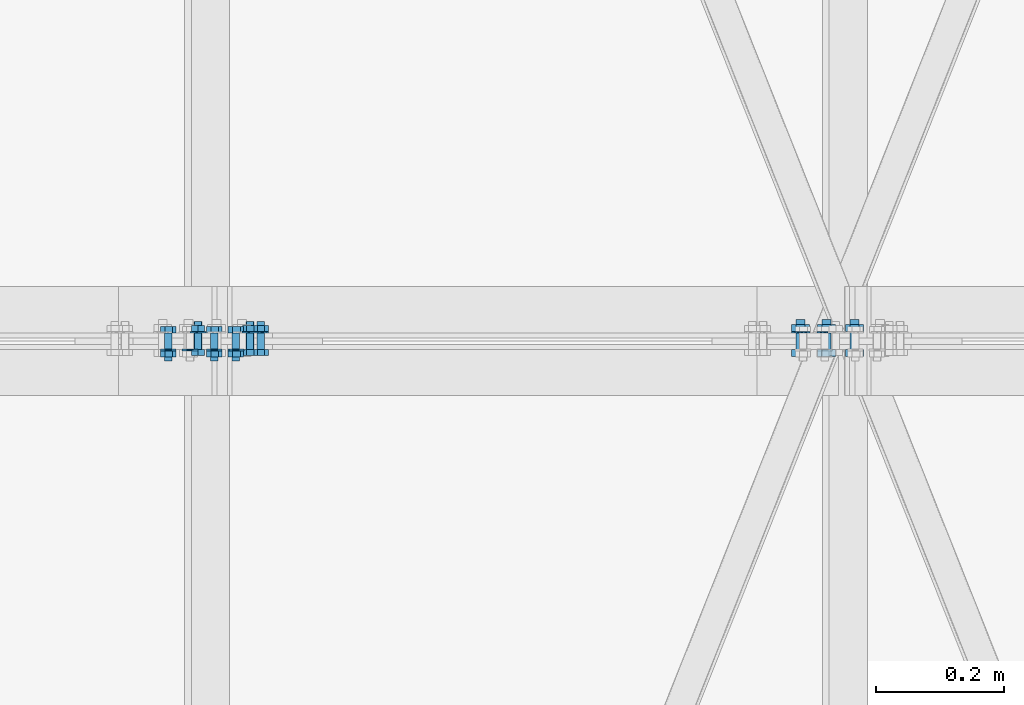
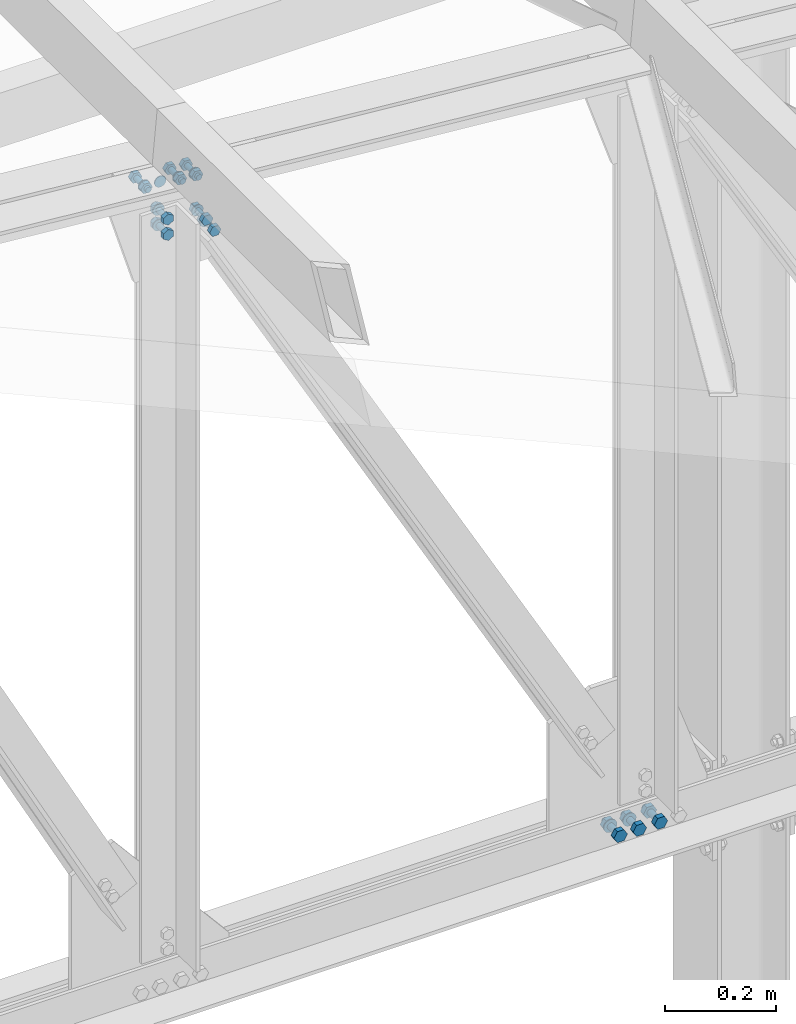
# One storey, part 146 of 251: 40 mechanical fasteners.
"""IFC4 building model written with IfcOpenShell, lengths in metres."""

from ifc_helpers import new_model, si_unit, frame, origin_with_axes, place, context, project, spatial, polyline, outline, extrude, type_object, element, save


model = new_model("IFC4")

# Units and contexts
model_context = context("Model", 3, precision=1e-05, world=origin_with_axes())
ifc_project = project(units=[si_unit("LENGTHUNIT", "METRE"), si_unit("AREAUNIT", "SQUARE_METRE"), si_unit("VOLUMEUNIT", "CUBIC_METRE"), si_unit("MASSUNIT", "GRAM", prefix="KILO"), si_unit("TIMEUNIT", "SECOND"), si_unit("PLANEANGLEUNIT", "RADIAN"), si_unit("SOLIDANGLEUNIT", "STERADIAN"), si_unit("THERMODYNAMICTEMPERATUREUNIT", "DEGREE_CELSIUS")], contexts=[model_context])

# Site, building, storey
placement_1 = place(None, origin_with_axes())
site = spatial("IfcSite", under=ifc_project, at=placement_1, Name="Italia", CompositionType="ELEMENT")
building = spatial("IfcBuilding", under=site, at=placement_1, Name="Deposito", CompositionType="ELEMENT")
storey = spatial("IfcBuildingStorey", under=building, at=placement_1, Name="Storey 0", CompositionType="ELEMENT", Elevation=0.0)

# Mechanical fasteners
mechanical_fastener_type_1 = type_object("IfcMechanicalFastenerType", Name="Reticolare 5", PredefinedType="BOLT")
placement_2 = place(placement_1, origin_with_axes())
mechanical_fastener_1_placement = place(placement_2, origin_with_axes())
element("IfcMechanicalFastener", 1, at=mechanical_fastener_1_placement, inside=storey, type_object=mechanical_fastener_type_1, Name="Reticolare 5", NominalDiameter=0.0139997, context=model_context, shape_type="SweptSolid", body=[
    extrude(outline(polyline([(0.0, 0.0), (-0.0139999, 0.0), (-0.0209999, 0.0121241), (-0.0139999, 0.0242486), (0.0, 0.0242486), (0.00699997, 0.0121241), (0.0, 0.0)])), frame((12.0154, 14.987, 4.99688), z_axis=(0.0, -1.0, 0.0), x_axis=(1.0, 0.0, 0.0)), (0.0, 0.0, 1.0), 0.0112009),
])
mechanical_fastener_type_2 = type_object("IfcMechanicalFastenerType", Name="Reticolare 5", PredefinedType="BOLT")
mechanical_fastener_2_placement = place(placement_2, origin_with_axes())
element("IfcMechanicalFastener", 2, at=mechanical_fastener_2_placement, inside=storey, type_object=mechanical_fastener_type_2, Name="Reticolare 5", NominalDiameter=0.014, context=model_context, shape_type="SweptSolid", body=[
    extrude(outline(polyline([(0.0, 0.0), (-0.000238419, -0.0018115), (-0.000937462, -0.00349998), (-0.0020504, -0.00494957), (-0.00349998, -0.00606203), (-0.00518799, -0.00676155), (-0.00699997, -0.00699997), (-0.00881195, -0.00676155), (-0.0105, -0.00606203), (-0.0119495, -0.00494957), (-0.0130625, -0.00349998), (-0.0137615, -0.0018115), (-0.0139999, 0.0), (-0.0137615, 0.0018115), (-0.0130625, 0.00349998), (-0.0119495, 0.00494957), (-0.0105, 0.00606203), (-0.00881195, 0.00676155), (-0.00699997, 0.00699997), (-0.00518799, 0.00676155), (-0.00349998, 0.00606203), (-0.0020504, 0.00494957), (-0.000937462, 0.00349998), (-0.000238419, 0.0018115), (0.0, 0.0)])), frame((12.0154, 15.034, 5.009), z_axis=(0.0, -1.0, 0.0), x_axis=(1.0, 0.0, 0.0)), (0.0, 0.0, 1.0), 0.0469999),
])
mechanical_fastener_type_3 = type_object("IfcMechanicalFastenerType", Name="Reticolare 5", PredefinedType="BOLT")
mechanical_fastener_3_placement = place(placement_2, origin_with_axes())
element("IfcMechanicalFastener", 3, at=mechanical_fastener_3_placement, inside=storey, type_object=mechanical_fastener_type_3, Name="Reticolare 5", NominalDiameter=0.0139997, context=model_context, shape_type="SweptSolid", body=[
    extrude(outline(polyline([(0.0, 0.0), (-0.0139999, 0.0), (-0.0209999, 0.0121241), (-0.0139999, 0.0242486), (0.0, 0.0242486), (0.00699997, 0.0121241), (0.0, 0.0)])), frame((12.0154, 15.0262, 4.99688), z_axis=(0.0, -1.0, 0.0), x_axis=(1.0, 0.0, 0.0)), (0.0, 0.0, 1.0), 0.0112),
])
mechanical_fastener_type_4 = type_object("IfcMechanicalFastenerType", Name="Reticolare 5", PredefinedType="BOLT")
mechanical_fastener_4_placement = place(placement_2, origin_with_axes())
element("IfcMechanicalFastener", 4, at=mechanical_fastener_4_placement, inside=storey, type_object=mechanical_fastener_type_4, Name="Reticolare 5", NominalDiameter=0.028, context=model_context, shape_type="SweptSolid", body=[
    extrude(outline(polyline([(0.0, 0.0), (-0.000476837, -0.00362349), (-0.00187588, -0.00699997), (-0.0041008, -0.00989962), (-0.00699997, -0.0121245), (-0.0103769, -0.0135231), (-0.0139999, -0.0139999), (-0.0176229, -0.0135231), (-0.0209999, -0.0121245), (-0.0238991, -0.00989962), (-0.026124, -0.00699997), (-0.027523, -0.00362349), (-0.0279999, 0.0), (-0.027523, 0.00362349), (-0.026124, 0.00699997), (-0.0238991, 0.00989962), (-0.0209999, 0.0121245), (-0.0176229, 0.0135231), (-0.0139999, 0.0139999), (-0.0103769, 0.0135231), (-0.00699997, 0.0121245), (-0.0041008, 0.00989962), (-0.00187588, 0.00699997), (-0.000476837, 0.00362349), (0.0, 0.0)])), frame((12.0224, 15.015, 5.009), z_axis=(0.0, -1.0, 0.0), x_axis=(1.0, 0.0, 0.0)), (0.0, 0.0, 1.0), 0.00200081),
])
mechanical_fastener_type_5 = type_object("IfcMechanicalFastenerType", Name="Reticolare 5", PredefinedType="BOLT")
mechanical_fastener_5_placement = place(placement_2, origin_with_axes())
element("IfcMechanicalFastener", 5, at=mechanical_fastener_5_placement, inside=storey, type_object=mechanical_fastener_type_5, Name="Reticolare 5", NominalDiameter=0.0139997, context=model_context, shape_type="SweptSolid", body=[
    extrude(outline(polyline([(0.0, 0.0), (-0.0139999, 0.0), (-0.0209999, 0.0121241), (-0.0139999, 0.0242486), (0.0, 0.0242486), (0.00699997, 0.0121241), (0.0, 0.0)])), frame((11.9754, 14.987, 4.99688), z_axis=(0.0, -1.0, 0.0), x_axis=(1.0, 0.0, 0.0)), (0.0, 0.0, 1.0), 0.0112009),
])
mechanical_fastener_type_6 = type_object("IfcMechanicalFastenerType", Name="Reticolare 5", PredefinedType="BOLT")
mechanical_fastener_6_placement = place(placement_2, origin_with_axes())
element("IfcMechanicalFastener", 6, at=mechanical_fastener_6_placement, inside=storey, type_object=mechanical_fastener_type_6, Name="Reticolare 5", NominalDiameter=0.014, context=model_context, shape_type="SweptSolid", body=[
    extrude(outline(polyline([(0.0, 0.0), (-0.000238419, -0.0018115), (-0.000937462, -0.00349998), (-0.0020504, -0.00494957), (-0.00349998, -0.00606203), (-0.00518799, -0.00676155), (-0.00699997, -0.00699997), (-0.00881195, -0.00676155), (-0.0105, -0.00606203), (-0.0119495, -0.00494957), (-0.0130625, -0.00349998), (-0.0137615, -0.0018115), (-0.0139999, 0.0), (-0.0137615, 0.0018115), (-0.0130625, 0.00349998), (-0.0119495, 0.00494957), (-0.0105, 0.00606203), (-0.00881195, 0.00676155), (-0.00699997, 0.00699997), (-0.00518799, 0.00676155), (-0.00349998, 0.00606203), (-0.0020504, 0.00494957), (-0.000937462, 0.00349998), (-0.000238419, 0.0018115), (0.0, 0.0)])), frame((11.9754, 15.034, 5.009), z_axis=(0.0, -1.0, 0.0), x_axis=(1.0, 0.0, 0.0)), (0.0, 0.0, 1.0), 0.0469999),
])
mechanical_fastener_type_7 = type_object("IfcMechanicalFastenerType", Name="Reticolare 5", PredefinedType="BOLT")
mechanical_fastener_7_placement = place(placement_2, origin_with_axes())
element("IfcMechanicalFastener", 7, at=mechanical_fastener_7_placement, inside=storey, type_object=mechanical_fastener_type_7, Name="Reticolare 5", NominalDiameter=0.0139997, context=model_context, shape_type="SweptSolid", body=[
    extrude(outline(polyline([(0.0, 0.0), (-0.0139999, 0.0), (-0.0209999, 0.0121241), (-0.0139999, 0.0242486), (0.0, 0.0242486), (0.00699997, 0.0121241), (0.0, 0.0)])), frame((11.9754, 15.0262, 4.99688), z_axis=(0.0, -1.0, 0.0), x_axis=(1.0, 0.0, 0.0)), (0.0, 0.0, 1.0), 0.0112),
])
mechanical_fastener_type_8 = type_object("IfcMechanicalFastenerType", Name="Reticolare 5", PredefinedType="BOLT")
mechanical_fastener_8_placement = place(placement_2, origin_with_axes())
element("IfcMechanicalFastener", 8, at=mechanical_fastener_8_placement, inside=storey, type_object=mechanical_fastener_type_8, Name="Reticolare 5", NominalDiameter=0.028, context=model_context, shape_type="SweptSolid", body=[
    extrude(outline(polyline([(0.0, 0.0), (-0.000476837, -0.00362349), (-0.00187588, -0.00699997), (-0.0041008, -0.00989962), (-0.00699997, -0.0121245), (-0.0103769, -0.0135231), (-0.0139999, -0.0139999), (-0.0176229, -0.0135231), (-0.0209999, -0.0121245), (-0.0238991, -0.00989962), (-0.026124, -0.00699997), (-0.027523, -0.00362349), (-0.0279999, 0.0), (-0.027523, 0.00362349), (-0.026124, 0.00699997), (-0.0238991, 0.00989962), (-0.0209999, 0.0121245), (-0.0176229, 0.0135231), (-0.0139999, 0.0139999), (-0.0103769, 0.0135231), (-0.00699997, 0.0121245), (-0.0041008, 0.00989962), (-0.00187588, 0.00699997), (-0.000476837, 0.00362349), (0.0, 0.0)])), frame((11.9824, 15.015, 5.009), z_axis=(0.0, -1.0, 0.0), x_axis=(1.0, 0.0, 0.0)), (0.0, 0.0, 1.0), 0.00200081),
])
mechanical_fastener_type_9 = type_object("IfcMechanicalFastenerType", Name="Reticolare 5", PredefinedType="BOLT")
mechanical_fastener_9_placement = place(placement_2, origin_with_axes())
element("IfcMechanicalFastener", 9, at=mechanical_fastener_9_placement, inside=storey, type_object=mechanical_fastener_type_9, Name="Reticolare 5", NominalDiameter=0.0139997, context=model_context, shape_type="SweptSolid", body=[
    extrude(outline(polyline([(0.0, 0.0), (-0.0139999, 0.0), (-0.0209999, 0.0121241), (-0.0139999, 0.0242486), (0.0, 0.0242486), (0.00699997, 0.0121241), (0.0, 0.0)])), frame((12.0594, 14.987, 4.99688), z_axis=(0.0, -1.0, 0.0), x_axis=(1.0, 0.0, 0.0)), (0.0, 0.0, 1.0), 0.0112009),
])
mechanical_fastener_type_10 = type_object("IfcMechanicalFastenerType", Name="Reticolare 5", PredefinedType="BOLT")
mechanical_fastener_10_placement = place(placement_2, origin_with_axes())
element("IfcMechanicalFastener", 10, at=mechanical_fastener_10_placement, inside=storey, type_object=mechanical_fastener_type_10, Name="Reticolare 5", NominalDiameter=0.014, context=model_context, shape_type="SweptSolid", body=[
    extrude(outline(polyline([(0.0, 0.0), (-0.000238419, -0.0018115), (-0.000937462, -0.00349998), (-0.0020504, -0.00494957), (-0.00349998, -0.00606203), (-0.00518799, -0.00676155), (-0.00699997, -0.00699997), (-0.00881195, -0.00676155), (-0.0105, -0.00606203), (-0.0119495, -0.00494957), (-0.0130625, -0.00349998), (-0.0137615, -0.0018115), (-0.0139999, 0.0), (-0.0137615, 0.0018115), (-0.0130625, 0.00349998), (-0.0119495, 0.00494957), (-0.0105, 0.00606203), (-0.00881195, 0.00676155), (-0.00699997, 0.00699997), (-0.00518799, 0.00676155), (-0.00349998, 0.00606203), (-0.0020504, 0.00494957), (-0.000937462, 0.00349998), (-0.000238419, 0.0018115), (0.0, 0.0)])), frame((12.0594, 15.034, 5.009), z_axis=(0.0, -1.0, 0.0), x_axis=(1.0, 0.0, 0.0)), (0.0, 0.0, 1.0), 0.0469999),
])
mechanical_fastener_type_11 = type_object("IfcMechanicalFastenerType", Name="Reticolare 5", PredefinedType="BOLT")
mechanical_fastener_11_placement = place(placement_2, origin_with_axes())
element("IfcMechanicalFastener", 11, at=mechanical_fastener_11_placement, inside=storey, type_object=mechanical_fastener_type_11, Name="Reticolare 5", NominalDiameter=0.0139997, context=model_context, shape_type="SweptSolid", body=[
    extrude(outline(polyline([(0.0, 0.0), (-0.0139999, 0.0), (-0.0209999, 0.0121241), (-0.0139999, 0.0242486), (0.0, 0.0242486), (0.00699997, 0.0121241), (0.0, 0.0)])), frame((12.0594, 15.0262, 4.99688), z_axis=(0.0, -1.0, 0.0), x_axis=(1.0, 0.0, 0.0)), (0.0, 0.0, 1.0), 0.0112),
])
mechanical_fastener_type_12 = type_object("IfcMechanicalFastenerType", Name="Reticolare 5", PredefinedType="BOLT")
mechanical_fastener_12_placement = place(placement_2, origin_with_axes())
element("IfcMechanicalFastener", 12, at=mechanical_fastener_12_placement, inside=storey, type_object=mechanical_fastener_type_12, Name="Reticolare 5", NominalDiameter=0.024, context=model_context, shape_type="SweptSolid", body=[
    extrude(outline(polyline([(0.0, 0.0), (-0.000409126, -0.00310564), (-0.00160789, -0.00600004), (-0.00351524, -0.00848532), (-0.00600052, -0.0103922), (-0.00889397, -0.011591), (-0.0120001, -0.0120001), (-0.0151062, -0.011591), (-0.0179996, -0.0103922), (-0.0204849, -0.00848532), (-0.0223923, -0.00600004), (-0.023591, -0.00310564), (-0.0240002, 0.0), (-0.023591, 0.00310564), (-0.0223923, 0.00600004), (-0.0204849, 0.00848532), (-0.0179996, 0.0103922), (-0.0151062, 0.011591), (-0.0120001, 0.0120001), (-0.00889397, 0.011591), (-0.00600052, 0.0103922), (-0.00351524, 0.00848532), (-0.00160789, 0.00600004), (-0.000409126, 0.00310564), (0.0, 0.0)])), frame((11.0027, 14.985, 6.77908), z_axis=(0.0, 1.0, 0.0), x_axis=(-1.0, 0.0, 0.0)), (0.0, 0.0, 1.0), 0.00200081),
])
mechanical_fastener_type_13 = type_object("IfcMechanicalFastenerType", Name="Reticolare 5", PredefinedType="BOLT")
mechanical_fastener_13_placement = place(placement_2, origin_with_axes())
element("IfcMechanicalFastener", 13, at=mechanical_fastener_13_placement, inside=storey, type_object=mechanical_fastener_type_13, Name="Reticolare 5", NominalDiameter=0.012, context=model_context, shape_type="SweptSolid", body=[
    extrude(outline(polyline([(0.0, 0.0), (0.0119543, 0.0010457), (0.018837, -0.00878429), (0.0137653, -0.01966), (0.00181103, -0.0207057), (-0.00507164, -0.0108757), (0.0, 0.0)])), frame((10.9877, 15.013, 6.79188), z_axis=(0.0, 1.0, 0.0), x_axis=(-1.0, 0.0, 0.0)), (0.0, 0.0, 1.0), 0.00960064),
])
mechanical_fastener_type_14 = type_object("IfcMechanicalFastenerType", Name="Reticolare 5", PredefinedType="BOLT")
mechanical_fastener_14_placement = place(placement_2, origin_with_axes())
element("IfcMechanicalFastener", 14, at=mechanical_fastener_14_placement, inside=storey, type_object=mechanical_fastener_type_14, Name="Reticolare 5", NominalDiameter=0.012, context=model_context, shape_type="SweptSolid", body=[
    extrude(outline(polyline([(0.0, 0.0), (-0.000204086, -0.00155306), (-0.000802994, -0.00299978), (-0.00175667, -0.00424242), (-0.00299931, -0.00519609), (-0.00444698, -0.00579548), (-0.00599957, -0.00600004), (-0.00755215, -0.00579548), (-0.00899982, -0.00519609), (-0.0102425, -0.00424242), (-0.0111961, -0.00299978), (-0.011795, -0.00155306), (-0.0119991, 0.0), (-0.011795, 0.00155306), (-0.0111961, 0.00299978), (-0.0102425, 0.00424242), (-0.00899982, 0.00519609), (-0.00755215, 0.00579548), (-0.00599957, 0.00600004), (-0.00444698, 0.00579548), (-0.00299931, 0.00519609), (-0.00175667, 0.00424242), (-0.000802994, 0.00299978), (-0.000204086, 0.00155306), (0.0, 0.0)])), frame((10.9748, 14.969, 6.78205), z_axis=(0.0, 1.0, 0.0), x_axis=(-1.0, 0.0, 0.0)), (0.0, 0.0, 1.0), 0.0439997),
])
mechanical_fastener_type_15 = type_object("IfcMechanicalFastenerType", Name="Reticolare 5", PredefinedType="BOLT")
mechanical_fastener_15_placement = place(placement_2, origin_with_axes())
element("IfcMechanicalFastener", 15, at=mechanical_fastener_15_placement, inside=storey, type_object=mechanical_fastener_type_15, Name="Reticolare 5", NominalDiameter=0.012, context=model_context, shape_type="SweptSolid", body=[
    extrude(outline(polyline([(0.0, 0.0), (0.0119543, 0.0010457), (0.018837, -0.00878429), (0.0137653, -0.01966), (0.00181103, -0.0207057), (-0.00507164, -0.0108757), (0.0, 0.0)])), frame((10.9877, 14.9754, 6.79188), z_axis=(0.0, 1.0, 0.0), x_axis=(-1.0, 0.0, 0.0)), (0.0, 0.0, 1.0), 0.00959969),
])
mechanical_fastener_type_16 = type_object("IfcMechanicalFastenerType", Name="Reticolare 5", PredefinedType="BOLT")
mechanical_fastener_16_placement = place(placement_2, origin_with_axes())
element("IfcMechanicalFastener", 16, at=mechanical_fastener_16_placement, inside=storey, type_object=mechanical_fastener_type_16, Name="Reticolare 5", NominalDiameter=0.024, context=model_context, shape_type="SweptSolid", body=[
    extrude(outline(polyline([(0.0, 0.0), (-0.000409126, -0.00310564), (-0.00160789, -0.00600004), (-0.00351524, -0.00848532), (-0.00600052, -0.0103922), (-0.00889397, -0.011591), (-0.0120001, -0.0120001), (-0.0151062, -0.011591), (-0.0179996, -0.0103922), (-0.0204849, -0.00848532), (-0.0223923, -0.00600004), (-0.023591, -0.00310564), (-0.0240002, 0.0), (-0.023591, 0.00310564), (-0.0223923, 0.00600004), (-0.0204849, 0.00848532), (-0.0179996, 0.0103922), (-0.0151062, 0.011591), (-0.0120001, 0.0120001), (-0.00889397, 0.011591), (-0.00600052, 0.0103922), (-0.00351524, 0.00848532), (-0.00160789, 0.00600004), (-0.000409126, 0.00310564), (0.0, 0.0)])), frame((10.9688, 14.985, 6.78205), z_axis=(0.0, 1.0, 0.0), x_axis=(-1.0, 0.0, 0.0)), (0.0, 0.0, 1.0), 0.00200081),
])
mechanical_fastener_type_17 = type_object("IfcMechanicalFastenerType", Name="Reticolare 5", PredefinedType="BOLT")
mechanical_fastener_17_placement = place(placement_2, origin_with_axes())
element("IfcMechanicalFastener", 17, at=mechanical_fastener_17_placement, inside=storey, type_object=mechanical_fastener_type_17, Name="Reticolare 5", NominalDiameter=0.0119997, context=model_context, shape_type="SweptSolid", body=[
    extrude(outline(polyline([(0.0, 0.0), (0.0119543, 0.0010457), (0.0188379, -0.00878429), (0.0137663, -0.01966), (0.00181198, -0.0207057), (-0.00507069, -0.0108757), (0.0, 0.0)])), frame((11.0594, 15.013, 6.7856), z_axis=(0.0, 1.0, 0.0), x_axis=(-1.0, 0.0, 0.0)), (0.0, 0.0, 1.0), 0.00960064),
])
mechanical_fastener_type_18 = type_object("IfcMechanicalFastenerType", Name="Reticolare 5", PredefinedType="BOLT")
mechanical_fastener_18_placement = place(placement_2, origin_with_axes())
element("IfcMechanicalFastener", 18, at=mechanical_fastener_18_placement, inside=storey, type_object=mechanical_fastener_type_18, Name="Reticolare 5", NominalDiameter=0.012, context=model_context, shape_type="SweptSolid", body=[
    extrude(outline(polyline([(0.0, 0.0), (-0.000204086, -0.00155306), (-0.000802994, -0.00299978), (-0.00175667, -0.00424242), (-0.00299931, -0.00519609), (-0.00444698, -0.00579548), (-0.00599957, -0.00600004), (-0.00755215, -0.00579548), (-0.00899982, -0.00519609), (-0.0102425, -0.00424242), (-0.0111961, -0.00299978), (-0.011795, -0.00155306), (-0.0119991, 0.0), (-0.011795, 0.00155306), (-0.0111961, 0.00299978), (-0.0102425, 0.00424242), (-0.00899982, 0.00519609), (-0.00755215, 0.00579548), (-0.00599957, 0.00600004), (-0.00444698, 0.00579548), (-0.00299931, 0.00519609), (-0.00175667, 0.00424242), (-0.000802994, 0.00299978), (-0.000204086, 0.00155306), (0.0, 0.0)])), frame((11.0466, 14.969, 6.77577), z_axis=(0.0, 1.0, 0.0), x_axis=(-1.0, 0.0, 0.0)), (0.0, 0.0, 1.0), 0.0439997),
])
mechanical_fastener_type_19 = type_object("IfcMechanicalFastenerType", Name="Reticolare 5", PredefinedType="BOLT")
mechanical_fastener_19_placement = place(placement_2, origin_with_axes())
element("IfcMechanicalFastener", 19, at=mechanical_fastener_19_placement, inside=storey, type_object=mechanical_fastener_type_19, Name="Reticolare 5", NominalDiameter=0.0119997, context=model_context, shape_type="SweptSolid", body=[
    extrude(outline(polyline([(0.0, 0.0), (0.0119543, 0.0010457), (0.0188379, -0.00878429), (0.0137663, -0.01966), (0.00181198, -0.0207057), (-0.00507069, -0.0108757), (0.0, 0.0)])), frame((11.0594, 14.9754, 6.7856), z_axis=(0.0, 1.0, 0.0), x_axis=(-1.0, 0.0, 0.0)), (0.0, 0.0, 1.0), 0.00959969),
])
mechanical_fastener_type_20 = type_object("IfcMechanicalFastenerType", Name="Reticolare 5", PredefinedType="BOLT")
mechanical_fastener_20_placement = place(placement_2, origin_with_axes())
element("IfcMechanicalFastener", 20, at=mechanical_fastener_20_placement, inside=storey, type_object=mechanical_fastener_type_20, Name="Reticolare 5", NominalDiameter=0.024, context=model_context, shape_type="SweptSolid", body=[
    extrude(outline(polyline([(0.0, 0.0), (-0.000409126, -0.00310564), (-0.00160789, -0.00600004), (-0.00351524, -0.00848532), (-0.00600052, -0.0103922), (-0.00889397, -0.011591), (-0.0120001, -0.0120001), (-0.0151062, -0.011591), (-0.0179996, -0.0103922), (-0.0204849, -0.00848532), (-0.0223923, -0.00600004), (-0.023591, -0.00310564), (-0.0240002, 0.0), (-0.023591, 0.00310564), (-0.0223923, 0.00600004), (-0.0204849, 0.00848532), (-0.0179996, 0.0103922), (-0.0151062, 0.011591), (-0.0120001, 0.0120001), (-0.00889397, 0.011591), (-0.00600052, 0.0103922), (-0.00351524, 0.00848532), (-0.00160789, 0.00600004), (-0.000409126, 0.00310564), (0.0, 0.0)])), frame((11.0406, 14.985, 6.77577), z_axis=(0.0, 1.0, 0.0), x_axis=(-1.0, 0.0, 0.0)), (0.0, 0.0, 1.0), 0.00200081),
])
mechanical_fastener_type_21 = type_object("IfcMechanicalFastenerType", Name="Reticolare 5", PredefinedType="BOLT")
mechanical_fastener_21_placement = place(placement_2, origin_with_axes())
element("IfcMechanicalFastener", 21, at=mechanical_fastener_21_placement, inside=storey, type_object=mechanical_fastener_type_21, Name="Reticolare 5", NominalDiameter=0.0119996, context=model_context, shape_type="SweptSolid", body=[
    extrude(outline(polyline([(0.0, 0.0), (0.0119543, 0.0010457), (0.0188379, -0.00878382), (0.0137663, -0.0196595), (0.00181198, -0.0207052), (-0.00507069, -0.0108757), (0.0, 0.0)])), frame((11.0933, 15.013, 6.78264), z_axis=(0.0, 1.0, 0.0), x_axis=(-1.0, 0.0, 0.0)), (0.0, 0.0, 1.0), 0.00960064),
])
mechanical_fastener_type_22 = type_object("IfcMechanicalFastenerType", Name="Reticolare 5", PredefinedType="BOLT")
mechanical_fastener_22_placement = place(placement_2, origin_with_axes())
element("IfcMechanicalFastener", 22, at=mechanical_fastener_22_placement, inside=storey, type_object=mechanical_fastener_type_22, Name="Reticolare 5", NominalDiameter=0.012, context=model_context, shape_type="SweptSolid", body=[
    extrude(outline(polyline([(0.0, 0.0), (-0.000204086, -0.00155306), (-0.000802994, -0.00299978), (-0.00175667, -0.00424242), (-0.00299931, -0.00519609), (-0.00444698, -0.00579548), (-0.00599957, -0.00600004), (-0.00755215, -0.00579548), (-0.00899982, -0.00519609), (-0.0102425, -0.00424242), (-0.0111961, -0.00299978), (-0.011795, -0.00155306), (-0.0119991, 0.0), (-0.011795, 0.00155306), (-0.0111961, 0.00299978), (-0.0102425, 0.00424242), (-0.00899982, 0.00519609), (-0.00755215, 0.00579548), (-0.00599957, 0.00600004), (-0.00444698, 0.00579548), (-0.00299931, 0.00519609), (-0.00175667, 0.00424242), (-0.000802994, 0.00299978), (-0.000204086, 0.00155306), (0.0, 0.0)])), frame((11.0804, 14.969, 6.77281), z_axis=(0.0, 1.0, 0.0), x_axis=(-1.0, 0.0, 0.0)), (0.0, 0.0, 1.0), 0.0439997),
])
mechanical_fastener_type_23 = type_object("IfcMechanicalFastenerType", Name="Reticolare 5", PredefinedType="BOLT")
mechanical_fastener_23_placement = place(placement_2, origin_with_axes())
element("IfcMechanicalFastener", 23, at=mechanical_fastener_23_placement, inside=storey, type_object=mechanical_fastener_type_23, Name="Reticolare 5", NominalDiameter=0.0119996, context=model_context, shape_type="SweptSolid", body=[
    extrude(outline(polyline([(0.0, 0.0), (0.0119543, 0.0010457), (0.0188379, -0.00878382), (0.0137663, -0.0196595), (0.00181198, -0.0207052), (-0.00507069, -0.0108757), (0.0, 0.0)])), frame((11.0933, 14.9754, 6.78264), z_axis=(0.0, 1.0, 0.0), x_axis=(-1.0, 0.0, 0.0)), (0.0, 0.0, 1.0), 0.00959969),
])
mechanical_fastener_type_24 = type_object("IfcMechanicalFastenerType", Name="Reticolare 5", PredefinedType="BOLT")
mechanical_fastener_24_placement = place(placement_2, origin_with_axes())
element("IfcMechanicalFastener", 24, at=mechanical_fastener_24_placement, inside=storey, type_object=mechanical_fastener_type_24, Name="Reticolare 5", NominalDiameter=0.024, context=model_context, shape_type="SweptSolid", body=[
    extrude(outline(polyline([(0.0, 0.0), (-0.000409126, -0.00310564), (-0.00160789, -0.00600004), (-0.00351524, -0.00848532), (-0.00600052, -0.0103922), (-0.00889397, -0.011591), (-0.0120001, -0.0120001), (-0.0151062, -0.011591), (-0.0179996, -0.0103922), (-0.0204849, -0.00848532), (-0.0223923, -0.00600004), (-0.023591, -0.00310564), (-0.0240002, 0.0), (-0.023591, 0.00310564), (-0.0223923, 0.00600004), (-0.0204849, 0.00848532), (-0.0179996, 0.0103922), (-0.0151062, 0.011591), (-0.0120001, 0.0120001), (-0.00889397, 0.011591), (-0.00600052, 0.0103922), (-0.00351524, 0.00848532), (-0.00160789, 0.00600004), (-0.000409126, 0.00310564), (0.0, 0.0)])), frame((11.0744, 14.985, 6.77281), z_axis=(0.0, 1.0, 0.0), x_axis=(-1.0, 0.0, 0.0)), (0.0, 0.0, 1.0), 0.00200081),
])
mechanical_fastener_type_25 = type_object("IfcMechanicalFastenerType", Name="Reticolare 5", PredefinedType="BOLT")
mechanical_fastener_25_placement = place(placement_2, origin_with_axes())
element("IfcMechanicalFastener", 25, at=mechanical_fastener_25_placement, inside=storey, type_object=mechanical_fastener_type_25, Name="Reticolare 5", NominalDiameter=0.0119999, context=model_context, shape_type="SweptSolid", body=[
    extrude(outline(polyline([(0.0, 0.0), (0.0, -0.0120001), (-0.0103922, -0.0180001), (-0.0207844, -0.0120001), (-0.0207844, 0.0), (-0.0103922, 0.00600004), (0.0, 0.0)])), frame((11.0376, 14.987, 6.70164), z_axis=(0.0, -1.0, 0.0), x_axis=(1.0, 0.0, 0.0)), (0.0, 0.0, 1.0), 0.00960064),
])
mechanical_fastener_type_26 = type_object("IfcMechanicalFastenerType", Name="Reticolare 5", PredefinedType="BOLT")
mechanical_fastener_26_placement = place(placement_2, origin_with_axes())
element("IfcMechanicalFastener", 26, at=mechanical_fastener_26_placement, inside=storey, type_object=mechanical_fastener_type_26, Name="Reticolare 5", NominalDiameter=0.012, context=model_context, shape_type="SweptSolid", body=[
    extrude(outline(polyline([(0.0, 0.0), (-0.000204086, -0.00155306), (-0.000802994, -0.00299978), (-0.00175667, -0.00424242), (-0.00299931, -0.00519609), (-0.00444698, -0.00579548), (-0.00599957, -0.00600004), (-0.00755215, -0.00579548), (-0.00899982, -0.00519609), (-0.0102425, -0.00424242), (-0.0111961, -0.00299978), (-0.011795, -0.00155306), (-0.0119991, 0.0), (-0.011795, 0.00155306), (-0.0111961, 0.00299978), (-0.0102425, 0.00424242), (-0.00899982, 0.00519609), (-0.00755215, 0.00579548), (-0.00599957, 0.00600004), (-0.00444698, 0.00579548), (-0.00299931, 0.00519609), (-0.00175667, 0.00424242), (-0.000802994, 0.00299978), (-0.000204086, 0.00155306), (0.0, 0.0)])), frame((11.0332, 15.031, 6.69564), z_axis=(0.0, -1.0, 0.0), x_axis=(1.0, 0.0, 0.0)), (0.0, 0.0, 1.0), 0.0439997),
])
mechanical_fastener_type_27 = type_object("IfcMechanicalFastenerType", Name="Reticolare 5", PredefinedType="BOLT")
mechanical_fastener_27_placement = place(placement_2, origin_with_axes())
element("IfcMechanicalFastener", 27, at=mechanical_fastener_27_placement, inside=storey, type_object=mechanical_fastener_type_27, Name="Reticolare 5", NominalDiameter=0.0119999, context=model_context, shape_type="SweptSolid", body=[
    extrude(outline(polyline([(0.0, 0.0), (0.0, -0.0120001), (-0.0103922, -0.0180001), (-0.0207844, -0.0120001), (-0.0207844, 0.0), (-0.0103922, 0.00600004), (0.0, 0.0)])), frame((11.0376, 15.0246, 6.70164), z_axis=(0.0, -1.0, 0.0), x_axis=(1.0, 0.0, 0.0)), (0.0, 0.0, 1.0), 0.00959969),
])
mechanical_fastener_type_28 = type_object("IfcMechanicalFastenerType", Name="Reticolare 5", PredefinedType="BOLT")
mechanical_fastener_28_placement = place(placement_2, origin_with_axes())
element("IfcMechanicalFastener", 28, at=mechanical_fastener_28_placement, inside=storey, type_object=mechanical_fastener_type_28, Name="Reticolare 5", NominalDiameter=0.024, context=model_context, shape_type="SweptSolid", body=[
    extrude(outline(polyline([(0.0, 0.0), (-0.000409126, -0.00310564), (-0.00160789, -0.00600004), (-0.00351524, -0.00848532), (-0.00600052, -0.0103922), (-0.00889397, -0.011591), (-0.0120001, -0.0120001), (-0.0151062, -0.011591), (-0.0179996, -0.0103922), (-0.0204849, -0.00848532), (-0.0223923, -0.00600004), (-0.023591, -0.00310564), (-0.0240002, 0.0), (-0.023591, 0.00310564), (-0.0223923, 0.00600004), (-0.0204849, 0.00848532), (-0.0179996, 0.0103922), (-0.0151062, 0.011591), (-0.0120001, 0.0120001), (-0.00889397, 0.011591), (-0.00600052, 0.0103922), (-0.00351524, 0.00848532), (-0.00160789, 0.00600004), (-0.000409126, 0.00310564), (0.0, 0.0)])), frame((11.0392, 15.015, 6.69564), z_axis=(0.0, -1.0, 0.0), x_axis=(1.0, 0.0, 0.0)), (0.0, 0.0, 1.0), 0.00200081),
])
mechanical_fastener_type_29 = type_object("IfcMechanicalFastenerType", Name="Reticolare 5", PredefinedType="BOLT")
mechanical_fastener_29_placement = place(placement_2, origin_with_axes())
element("IfcMechanicalFastener", 29, at=mechanical_fastener_29_placement, inside=storey, type_object=mechanical_fastener_type_29, Name="Reticolare 5", NominalDiameter=0.0119999, context=model_context, shape_type="SweptSolid", body=[
    extrude(outline(polyline([(0.0, 0.0), (0.0, -0.0120001), (-0.0103922, -0.0180001), (-0.0207844, -0.0120001), (-0.0207844, 0.0), (-0.0103922, 0.00600004), (0.0, 0.0)])), frame((11.0376, 14.987, 6.66764), z_axis=(0.0, -1.0, 0.0), x_axis=(1.0, 0.0, 0.0)), (0.0, 0.0, 1.0), 0.00960064),
])
mechanical_fastener_type_30 = type_object("IfcMechanicalFastenerType", Name="Reticolare 5", PredefinedType="BOLT")
mechanical_fastener_30_placement = place(placement_2, origin_with_axes())
element("IfcMechanicalFastener", 30, at=mechanical_fastener_30_placement, inside=storey, type_object=mechanical_fastener_type_30, Name="Reticolare 5", NominalDiameter=0.012, context=model_context, shape_type="SweptSolid", body=[
    extrude(outline(polyline([(0.0, 0.0), (-0.000204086, -0.00155306), (-0.000802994, -0.00299978), (-0.00175667, -0.00424242), (-0.00299931, -0.00519609), (-0.00444698, -0.00579548), (-0.00599957, -0.00600004), (-0.00755215, -0.00579548), (-0.00899982, -0.00519609), (-0.0102425, -0.00424242), (-0.0111961, -0.00299978), (-0.011795, -0.00155306), (-0.0119991, 0.0), (-0.011795, 0.00155306), (-0.0111961, 0.00299978), (-0.0102425, 0.00424242), (-0.00899982, 0.00519609), (-0.00755215, 0.00579548), (-0.00599957, 0.00600004), (-0.00444698, 0.00579548), (-0.00299931, 0.00519609), (-0.00175667, 0.00424242), (-0.000802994, 0.00299978), (-0.000204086, 0.00155306), (0.0, 0.0)])), frame((11.0332, 15.031, 6.66164), z_axis=(0.0, -1.0, 0.0), x_axis=(1.0, 0.0, 0.0)), (0.0, 0.0, 1.0), 0.0439997),
])
mechanical_fastener_type_31 = type_object("IfcMechanicalFastenerType", Name="Reticolare 5", PredefinedType="BOLT")
mechanical_fastener_31_placement = place(placement_2, origin_with_axes())
element("IfcMechanicalFastener", 31, at=mechanical_fastener_31_placement, inside=storey, type_object=mechanical_fastener_type_31, Name="Reticolare 5", NominalDiameter=0.0119999, context=model_context, shape_type="SweptSolid", body=[
    extrude(outline(polyline([(0.0, 0.0), (0.0, -0.0120001), (-0.0103922, -0.0180001), (-0.0207844, -0.0120001), (-0.0207844, 0.0), (-0.0103922, 0.00600004), (0.0, 0.0)])), frame((11.0376, 15.0246, 6.66764), z_axis=(0.0, -1.0, 0.0), x_axis=(1.0, 0.0, 0.0)), (0.0, 0.0, 1.0), 0.00959969),
])
mechanical_fastener_type_32 = type_object("IfcMechanicalFastenerType", Name="Reticolare 5", PredefinedType="BOLT")
mechanical_fastener_32_placement = place(placement_2, origin_with_axes())
element("IfcMechanicalFastener", 32, at=mechanical_fastener_32_placement, inside=storey, type_object=mechanical_fastener_type_32, Name="Reticolare 5", NominalDiameter=0.024, context=model_context, shape_type="SweptSolid", body=[
    extrude(outline(polyline([(0.0, 0.0), (-0.000409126, -0.00310564), (-0.00160789, -0.00600004), (-0.00351524, -0.00848532), (-0.00600052, -0.0103922), (-0.00889397, -0.011591), (-0.0120001, -0.0120001), (-0.0151062, -0.011591), (-0.0179996, -0.0103922), (-0.0204849, -0.00848532), (-0.0223923, -0.00600004), (-0.023591, -0.00310564), (-0.0240002, 0.0), (-0.023591, 0.00310564), (-0.0223923, 0.00600004), (-0.0204849, 0.00848532), (-0.0179996, 0.0103922), (-0.0151062, 0.011591), (-0.0120001, 0.0120001), (-0.00889397, 0.011591), (-0.00600052, 0.0103922), (-0.00351524, 0.00848532), (-0.00160789, 0.00600004), (-0.000409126, 0.00310564), (0.0, 0.0)])), frame((11.0392, 15.015, 6.66164), z_axis=(0.0, -1.0, 0.0), x_axis=(1.0, 0.0, 0.0)), (0.0, 0.0, 1.0), 0.00200081),
])
mechanical_fastener_type_33 = type_object("IfcMechanicalFastenerType", Name="Reticolare 5", PredefinedType="BOLT")
mechanical_fastener_33_placement = place(placement_2, origin_with_axes())
element("IfcMechanicalFastener", 33, at=mechanical_fastener_33_placement, inside=storey, type_object=mechanical_fastener_type_33, Name="Reticolare 5", NominalDiameter=0.0119994, context=model_context, shape_type="SweptSolid", body=[
    extrude(outline(polyline([(0.0, 0.0), (-0.00584984, 0.010478), (0.000299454, 0.0207825), (0.0122976, 0.0206094), (0.0181475, 0.0101318), (0.0119982, -0.000173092), (0.0, 0.0)])), frame((11.1023, 14.987, 6.65557), z_axis=(0.0, -1.0, 0.0), x_axis=(1.0, 0.0, 0.0)), (0.0, 0.0, 1.0), 0.00960064),
])
mechanical_fastener_type_34 = type_object("IfcMechanicalFastenerType", Name="Reticolare 5", PredefinedType="BOLT")
mechanical_fastener_34_placement = place(placement_2, origin_with_axes())
element("IfcMechanicalFastener", 34, at=mechanical_fastener_34_placement, inside=storey, type_object=mechanical_fastener_type_34, Name="Reticolare 5", NominalDiameter=0.012, context=model_context, shape_type="SweptSolid", body=[
    extrude(outline(polyline([(0.0, 0.0), (-0.000204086, -0.00155306), (-0.000802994, -0.00299978), (-0.00175667, -0.00424242), (-0.00299931, -0.00519609), (-0.00444698, -0.00579548), (-0.00599957, -0.00600004), (-0.00755215, -0.00579548), (-0.00899982, -0.00519609), (-0.0102425, -0.00424242), (-0.0111961, -0.00299978), (-0.011795, -0.00155306), (-0.0119991, 0.0), (-0.011795, 0.00155306), (-0.0111961, 0.00299978), (-0.0102425, 0.00424242), (-0.00899982, 0.00519609), (-0.00755215, 0.00579548), (-0.00599957, 0.00600004), (-0.00444698, 0.00579548), (-0.00299931, 0.00519609), (-0.00175667, 0.00424242), (-0.000802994, 0.00299978), (-0.000204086, 0.00155306), (0.0, 0.0)])), frame((11.1144, 15.031, 6.66588), z_axis=(0.0, -1.0, 0.0), x_axis=(1.0, 0.0, 0.0)), (0.0, 0.0, 1.0), 0.0439997),
])
mechanical_fastener_type_35 = type_object("IfcMechanicalFastenerType", Name="Reticolare 5", PredefinedType="BOLT")
mechanical_fastener_35_placement = place(placement_2, origin_with_axes())
element("IfcMechanicalFastener", 35, at=mechanical_fastener_35_placement, inside=storey, type_object=mechanical_fastener_type_35, Name="Reticolare 5", NominalDiameter=0.0119994, context=model_context, shape_type="SweptSolid", body=[
    extrude(outline(polyline([(0.0, 0.0), (-0.00584984, 0.010478), (0.000299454, 0.0207825), (0.0122976, 0.0206094), (0.0181475, 0.0101318), (0.0119982, -0.000173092), (0.0, 0.0)])), frame((11.1023, 15.0246, 6.65557), z_axis=(0.0, -1.0, 0.0), x_axis=(1.0, 0.0, 0.0)), (0.0, 0.0, 1.0), 0.00959969),
])
mechanical_fastener_type_36 = type_object("IfcMechanicalFastenerType", Name="Reticolare 5", PredefinedType="BOLT")
mechanical_fastener_36_placement = place(placement_2, origin_with_axes())
element("IfcMechanicalFastener", 36, at=mechanical_fastener_36_placement, inside=storey, type_object=mechanical_fastener_type_36, Name="Reticolare 5", NominalDiameter=0.024, context=model_context, shape_type="SweptSolid", body=[
    extrude(outline(polyline([(0.0, 0.0), (-0.000409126, -0.00310564), (-0.00160789, -0.00600004), (-0.00351524, -0.00848532), (-0.00600052, -0.0103922), (-0.00889397, -0.011591), (-0.0120001, -0.0120001), (-0.0151062, -0.011591), (-0.0179996, -0.0103922), (-0.0204849, -0.00848532), (-0.0223923, -0.00600004), (-0.023591, -0.00310564), (-0.0240002, 0.0), (-0.023591, 0.00310564), (-0.0223923, 0.00600004), (-0.0204849, 0.00848532), (-0.0179996, 0.0103922), (-0.0151062, 0.011591), (-0.0120001, 0.0120001), (-0.00889397, 0.011591), (-0.00600052, 0.0103922), (-0.00351524, 0.00848532), (-0.00160789, 0.00600004), (-0.000409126, 0.00310564), (0.0, 0.0)])), frame((11.1204, 15.015, 6.66588), z_axis=(0.0, -1.0, 0.0), x_axis=(1.0, 0.0, 0.0)), (0.0, 0.0, 1.0), 0.00200081),
])
mechanical_fastener_type_37 = type_object("IfcMechanicalFastenerType", Name="Reticolare 5", PredefinedType="BOLT")
mechanical_fastener_37_placement = place(placement_2, origin_with_axes())
element("IfcMechanicalFastener", 37, at=mechanical_fastener_37_placement, inside=storey, type_object=mechanical_fastener_type_37, Name="Reticolare 5", NominalDiameter=0.0119994, context=model_context, shape_type="SweptSolid", body=[
    extrude(outline(polyline([(0.0, 0.0), (-0.00584888, 0.010478), (0.000300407, 0.0207825), (0.0122986, 0.0206094), (0.0181484, 0.0101318), (0.0119991, -0.000173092), (0.0, 0.0)])), frame((11.1189, 14.987, 6.62588), z_axis=(0.0, -1.0, 0.0), x_axis=(1.0, 0.0, 0.0)), (0.0, 0.0, 1.0), 0.00960064),
])
mechanical_fastener_type_38 = type_object("IfcMechanicalFastenerType", Name="Reticolare 5", PredefinedType="BOLT")
mechanical_fastener_38_placement = place(placement_2, origin_with_axes())
element("IfcMechanicalFastener", 38, at=mechanical_fastener_38_placement, inside=storey, type_object=mechanical_fastener_type_38, Name="Reticolare 5", NominalDiameter=0.012, context=model_context, shape_type="SweptSolid", body=[
    extrude(outline(polyline([(0.0, 0.0), (-0.000204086, -0.00155306), (-0.000802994, -0.00299978), (-0.00175667, -0.00424242), (-0.00299931, -0.00519609), (-0.00444698, -0.00579548), (-0.00599957, -0.00600004), (-0.00755215, -0.00579548), (-0.00899982, -0.00519609), (-0.0102425, -0.00424242), (-0.0111961, -0.00299978), (-0.011795, -0.00155306), (-0.0119991, 0.0), (-0.011795, 0.00155306), (-0.0111961, 0.00299978), (-0.0102425, 0.00424242), (-0.00899982, 0.00519609), (-0.00755215, 0.00579548), (-0.00599957, 0.00600004), (-0.00444698, 0.00579548), (-0.00299931, 0.00519609), (-0.00175667, 0.00424242), (-0.000802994, 0.00299978), (-0.000204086, 0.00155306), (0.0, 0.0)])), frame((11.131, 15.031, 6.63619), z_axis=(0.0, -1.0, 0.0), x_axis=(1.0, 0.0, 0.0)), (0.0, 0.0, 1.0), 0.0439997),
])
mechanical_fastener_type_39 = type_object("IfcMechanicalFastenerType", Name="Reticolare 5", PredefinedType="BOLT")
mechanical_fastener_39_placement = place(placement_2, origin_with_axes())
element("IfcMechanicalFastener", 39, at=mechanical_fastener_39_placement, inside=storey, type_object=mechanical_fastener_type_39, Name="Reticolare 5", NominalDiameter=0.0119994, context=model_context, shape_type="SweptSolid", body=[
    extrude(outline(polyline([(0.0, 0.0), (-0.00584888, 0.010478), (0.000300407, 0.0207825), (0.0122986, 0.0206094), (0.0181484, 0.0101318), (0.0119991, -0.000173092), (0.0, 0.0)])), frame((11.1189, 15.0246, 6.62588), z_axis=(0.0, -1.0, 0.0), x_axis=(1.0, 0.0, 0.0)), (0.0, 0.0, 1.0), 0.00959969),
])
mechanical_fastener_type_40 = type_object("IfcMechanicalFastenerType", Name="Reticolare 5", PredefinedType="BOLT")
mechanical_fastener_40_placement = place(placement_2, origin_with_axes())
element("IfcMechanicalFastener", 40, at=mechanical_fastener_40_placement, inside=storey, type_object=mechanical_fastener_type_40, Name="Reticolare 5", NominalDiameter=0.024, context=model_context, shape_type="SweptSolid", body=[
    extrude(outline(polyline([(0.0, 0.0), (-0.000409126, -0.00310564), (-0.00160789, -0.00600004), (-0.00351524, -0.00848532), (-0.00600052, -0.0103922), (-0.00889397, -0.011591), (-0.0120001, -0.0120001), (-0.0151062, -0.011591), (-0.0179996, -0.0103922), (-0.0204849, -0.00848532), (-0.0223923, -0.00600004), (-0.023591, -0.00310564), (-0.0240002, 0.0), (-0.023591, 0.00310564), (-0.0223923, 0.00600004), (-0.0204849, 0.00848532), (-0.0179996, 0.0103922), (-0.0151062, 0.011591), (-0.0120001, 0.0120001), (-0.00889397, 0.011591), (-0.00600052, 0.0103922), (-0.00351524, 0.00848532), (-0.00160789, 0.00600004), (-0.000409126, 0.00310564), (0.0, 0.0)])), frame((11.137, 15.015, 6.63619), z_axis=(0.0, -1.0, 0.0), x_axis=(1.0, 0.0, 0.0)), (0.0, 0.0, 1.0), 0.00200081),
])

save(model, "model.ifc")
